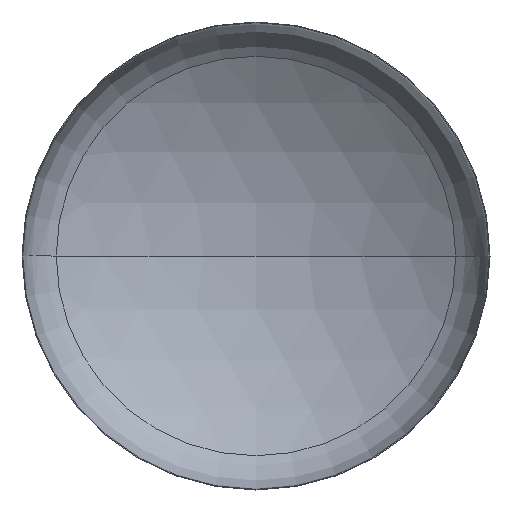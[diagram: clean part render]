
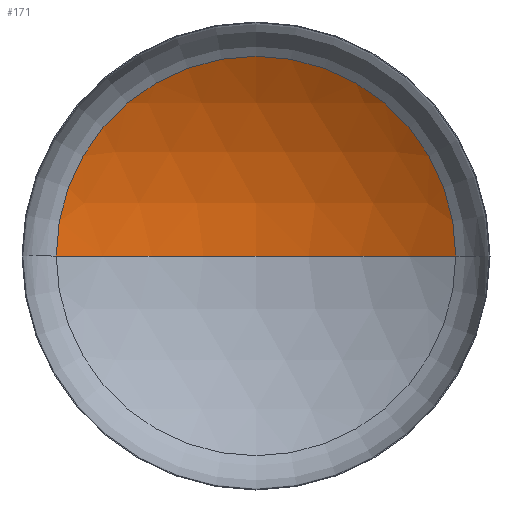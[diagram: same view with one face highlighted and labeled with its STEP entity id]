
A CAD part, front view. The second image highlights one B-rep face of the part: STEP entity #171.
In plain terms, the highlighted spherical face has radius 5200 mm.
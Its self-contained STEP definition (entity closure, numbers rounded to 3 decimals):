
#10 = SPHERICAL_SURFACE ( 'NONE', #215, 5200. ) ;
#45 = VERTEX_POINT ( 'NONE', #254 ) ;
#69 = ORIENTED_EDGE ( 'NONE', *, *, #247, .T. ) ;
#80 = VERTEX_POINT ( 'NONE', #194 ) ;
#86 = EDGE_LOOP ( 'NONE', ( #148, #98, #69 ) ) ;
#91 = DIRECTION ( 'NONE',  ( 1., 0., 0. ) ) ;
#98 = ORIENTED_EDGE ( 'NONE', *, *, #251, .T. ) ;
#108 = DIRECTION ( 'NONE',  ( 0., 0., -1. ) ) ;
#111 = DIRECTION ( 'NONE',  ( -1., 0., 0. ) ) ;
#113 = VERTEX_POINT ( 'NONE', #304 ) ;
#131 = AXIS2_PLACEMENT_3D ( 'NONE', #386, #384, #91 ) ;
#132 = DIRECTION ( 'NONE',  ( 1., 0., 0. ) ) ;
#133 = CIRCLE ( 'NONE', #162, 2774.571 ) ;
#141 = AXIS2_PLACEMENT_3D ( 'NONE', #341, #108, #111 ) ;
#148 = ORIENTED_EDGE ( 'NONE', *, *, #252, .F. ) ;
#162 = AXIS2_PLACEMENT_3D ( 'NONE', #357, #179, #132 ) ;
#171 = ADVANCED_FACE ( 'NONE', ( #240 ), #10, .F. ) ;
#179 = DIRECTION ( 'NONE',  ( 0., -1., 0. ) ) ;
#194 = CARTESIAN_POINT ( 'NONE',  ( 0., 1677.829, 0. ) ) ;
#215 = AXIS2_PLACEMENT_3D ( 'NONE', #299, #315, #318 ) ;
#240 = FACE_OUTER_BOUND ( 'NONE', #86, .T. ) ;
#247 = EDGE_CURVE ( 'NONE', #113, #45, #133, .T. ) ;
#251 = EDGE_CURVE ( 'NONE', #80, #113, #287, .T. ) ;
#252 = EDGE_CURVE ( 'NONE', #80, #45, #337, .T. ) ;
#254 = CARTESIAN_POINT ( 'NONE',  ( -2774.571, 875.755, 0. ) ) ;
#287 = CIRCLE ( 'NONE', #141, 5200. ) ;
#299 = CARTESIAN_POINT ( 'NONE',  ( 0., -3522.171, 0. ) ) ;
#304 = CARTESIAN_POINT ( 'NONE',  ( 2774.571, 875.755, 0. ) ) ;
#315 = DIRECTION ( 'NONE',  ( 0., 0., -1. ) ) ;
#318 = DIRECTION ( 'NONE',  ( -1., 0., 0. ) ) ;
#337 = CIRCLE ( 'NONE', #131, 5200. ) ;
#341 = CARTESIAN_POINT ( 'NONE',  ( 0., -3522.171, 0. ) ) ;
#357 = CARTESIAN_POINT ( 'NONE',  ( 0., 875.755, 0. ) ) ;
#384 = DIRECTION ( 'NONE',  ( 0., 0., 1. ) ) ;
#386 = CARTESIAN_POINT ( 'NONE',  ( 0., -3522.171, 0. ) ) ;
